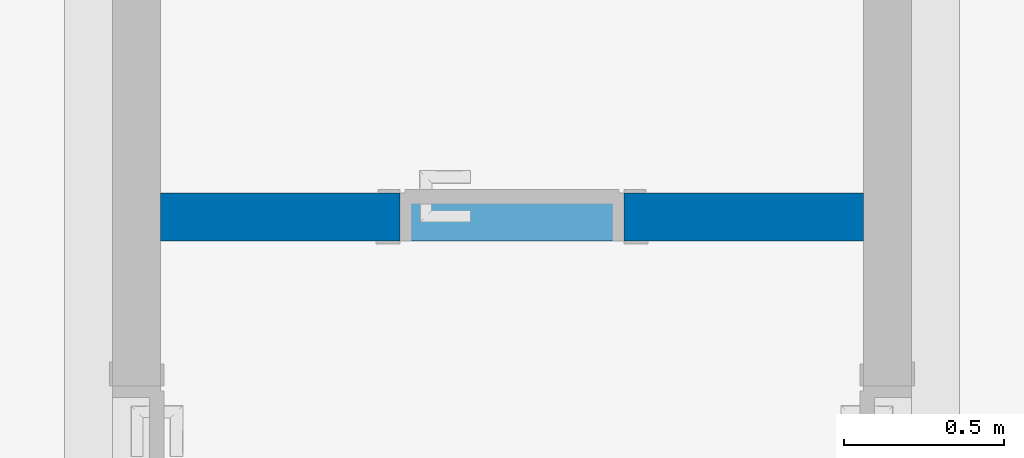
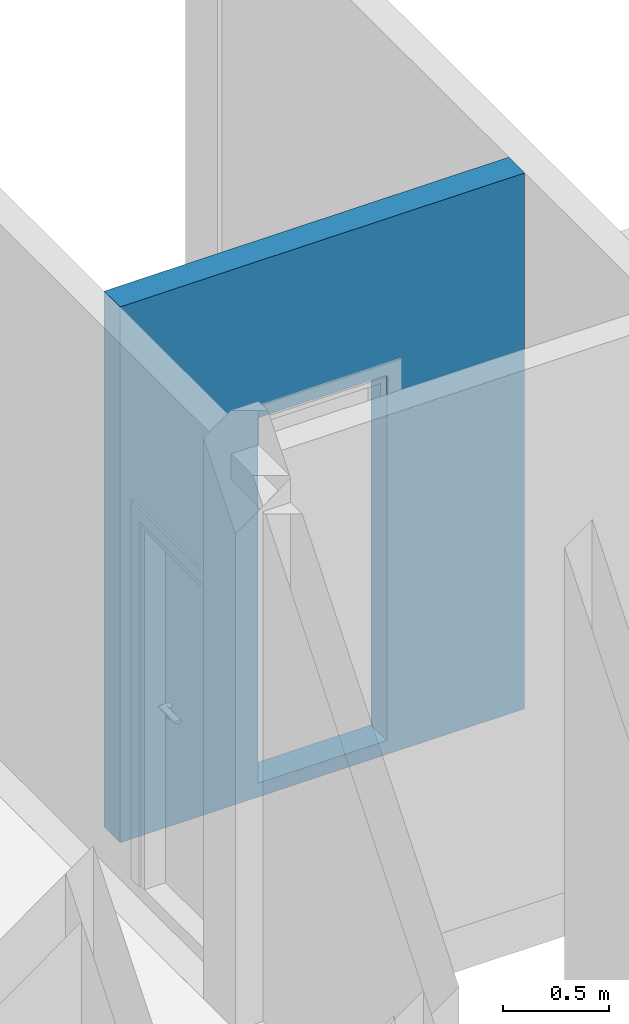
# One storey, part 9 of 11: 1 wall, 1 opening.
"""IFC2X3 building model written with IfcOpenShell, lengths in metres."""

from ifc_helpers import new_model, entity, si_unit, converted_unit, derived_unit, direction, frame, frame_2d, origin, place, context, subcontext, project, spatial, rectangle, extrude, material, layer, layer_set, layer_usage, type_object, element, save


model = new_model("IFC2X3")

# Units and contexts
model_context = context("Model", 3, precision=1e-05, world=origin(), true_north=direction((6.12303176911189e-17, 1.0)))
context_of_model = context(None, 3, precision=1e-05, world=origin(), true_north=direction((6.12303176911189e-17, 1.0)))
body_context = subcontext(model_context, "Body", "Model", "MODEL_VIEW")
ifc_project = project(units=[si_unit("LENGTHUNIT", "METRE"), si_unit("AREAUNIT", "SQUARE_METRE"), si_unit("VOLUMEUNIT", "CUBIC_METRE"), converted_unit("PLANEANGLEUNIT", "DEGREE", entity("IfcRatioMeasure", 0.0174532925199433), si_unit("PLANEANGLEUNIT", "RADIAN"), dimensions=[0, 0, 0, 0, 0, 0, 0]), si_unit("MASSUNIT", "GRAM", prefix="KILO"), si_unit("TIMEUNIT", "SECOND"), si_unit("FREQUENCYUNIT", "HERTZ"), si_unit("THERMODYNAMICTEMPERATUREUNIT", "DEGREE_CELSIUS"), derived_unit("THERMALTRANSMITTANCEUNIT", [(si_unit("MASSUNIT", "GRAM", prefix="KILO"), 1), (si_unit("THERMODYNAMICTEMPERATUREUNIT", "KELVIN"), -1), (si_unit("TIMEUNIT", "SECOND"), -3)]), derived_unit("VOLUMETRICFLOWRATEUNIT", [(si_unit("LENGTHUNIT", "METRE"), 3), (si_unit("TIMEUNIT", "SECOND"), -1)]), si_unit("ELECTRICCURRENTUNIT", "AMPERE"), si_unit("ELECTRICVOLTAGEUNIT", "VOLT"), si_unit("POWERUNIT", "WATT"), si_unit("FORCEUNIT", "NEWTON", prefix="KILO"), si_unit("ILLUMINANCEUNIT", "LUX"), si_unit("LUMINOUSFLUXUNIT", "LUMEN"), si_unit("LUMINOUSINTENSITYUNIT", "CANDELA"), si_unit("PRESSUREUNIT", "PASCAL")], contexts=[model_context, context_of_model])

# Site, building, storey
site_placement = place(None, origin())
site = spatial("IfcSite", under=ifc_project, at=site_placement, Name="Default", CompositionType="ELEMENT")
building_placement = place(site_placement, origin())
building = spatial("IfcBuilding", under=site, at=building_placement, CompositionType="ELEMENT")
storey_placement = place(building_placement, frame((0.0, 0.0, 3.45)))
storey = spatial("IfcBuildingStorey", under=building, at=storey_placement, Name="02.ES.PLANTA PRIMERA", CompositionType="ELEMENT", Elevation=3.45)

# Wall, opening
ifc_material = material(Name="Muro por defecto")
ifc_layer = layer(ifc_material, 0.15)
ifc_layer_set = layer_set([ifc_layer], Name="Muro básico:Por defecto - 15 cm")
ifc_layer_usage = layer_usage(ifc_layer_set, "AXIS2", "NEGATIVE", 0.075)
wall_type = type_object("IfcWallType", Name="Muro básico:Por defecto - 15 cm", PredefinedType="STANDARD", material=ifc_layer_set)
wall_placement = place(storey_placement, frame((9.215, 10.13, 0.0)))
wall = element("IfcWallStandardCase", 1, at=wall_placement, inside=storey, type_object=wall_type, material=ifc_layer_usage, Name="Muro básico:Por defecto - 15 cm", ObjectType="Muro básico:Por defecto - 15 cm", context=body_context, shape_type="SweptSolid", body=[
    extrude(rectangle(XDim=2.19999999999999, YDim=0.150000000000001, at=frame_2d((1.09999999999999, 0.0), x_axis=(-1.0, 0.0))), origin(), (0.0, 0.0, 1.0), 3.08),
])
opening_placement = place(wall_placement, frame((0.749999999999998, -0.0750000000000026, 0.0799999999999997)))
element("IfcOpeningElement", 2, at=opening_placement, cuts=wall, Name="Puerta de 1 hoja:70 x 210 cm:1", ObjectType="Opening", context=body_context, shape_type="SweptSolid", body=[
    extrude(rectangle(XDim=2.09999999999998, YDim=0.7, at=frame_2d((1.04999999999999, 0.35), x_axis=(1.0, 0.0))), frame((0.0, 0.0, 0.0), z_axis=(0.0, 1.0, 0.0), x_axis=(0.0, 0.0, 1.0)), (0.0, 0.0, 1.0), 0.15),
])

save(model, "model.ifc")
